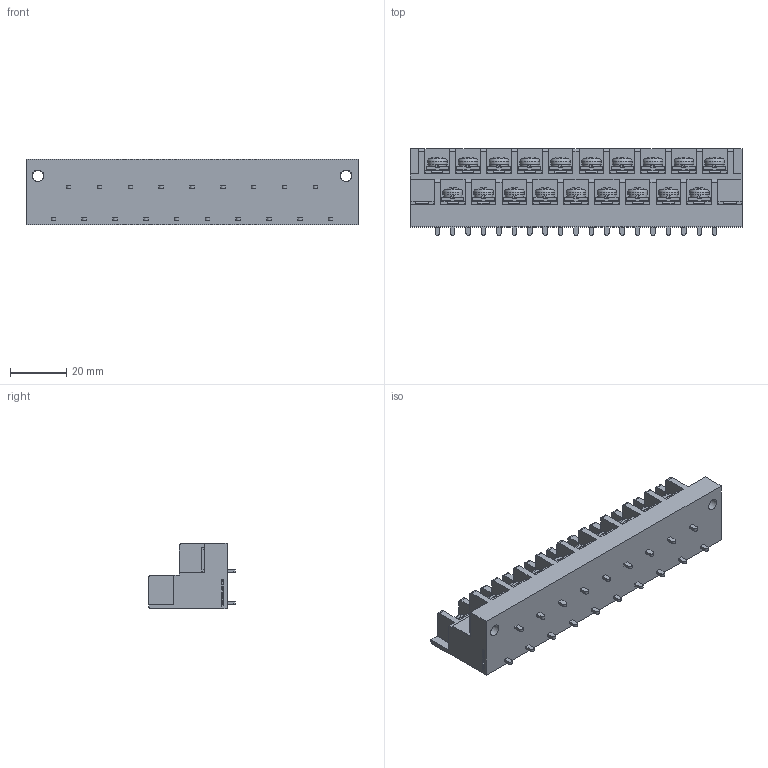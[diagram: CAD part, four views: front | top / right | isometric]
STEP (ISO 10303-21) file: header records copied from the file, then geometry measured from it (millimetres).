
FILE_DESCRIPTION(/* description */ ('Alibre Inc.'),/* implementation_level */ '2;1');
FILE_NAME(/* name */ 'export0',/* time_stamp */ '2016-08-05T14:40:30+09:00',/* author */ (''),/* organization */ (''),/* preprocessor_version */ 'ST-DEVELOPER v14',/* originating_system */ 'Alibre',/* authorisation */ '');
FILE_SCHEMA (('CONFIG_CONTROL_DESIGN'));
Length unit declared in the file: centimetre
Products named in the file (1): ID_1
Bounding box: 118.5 x 31 x 23.5 mm (x, y, z)
Volume: 49484.2 mm3; surface area: 22976.5 mm2
Topology: 1 solids, 174 shells, 4025 faces, 10531 edges, 6939 vertices
Faces by surface type: plane 3111, bspline 618, cylinder 163, cone 76, torus 38, sphere 19
Full cylindrical faces by diameter (mm): 4 x21, 4.2 x2, 7 x19
Entity records: 117571 total; most frequent: CARTESIAN_POINT 27043, ORIENTED_EDGE 21012, DIRECTION 13161, EDGE_CURVE 10430, VECTOR 7887, LINE 7887, VERTEX_POINT 6918, EDGE_LOOP 4358
